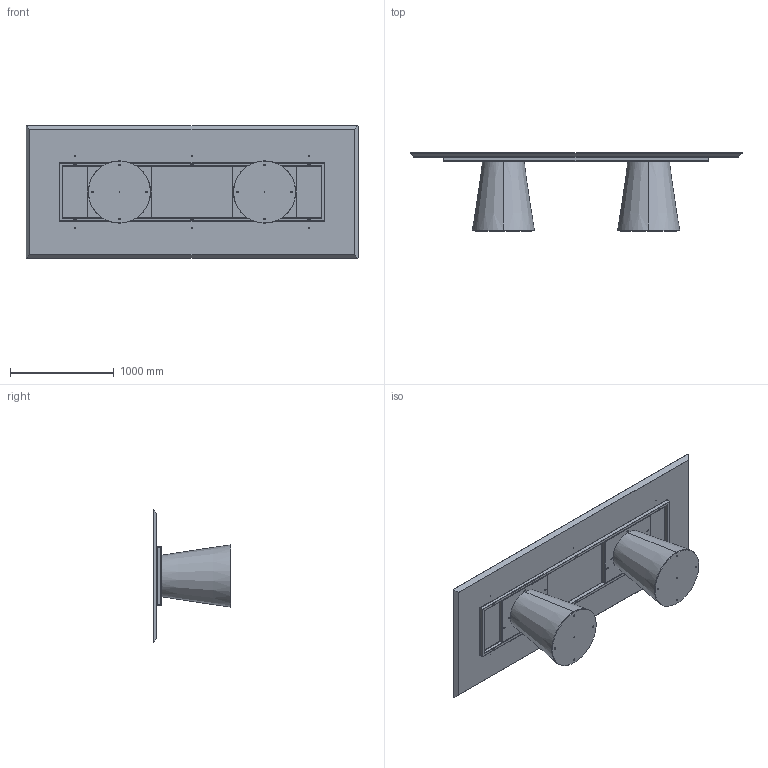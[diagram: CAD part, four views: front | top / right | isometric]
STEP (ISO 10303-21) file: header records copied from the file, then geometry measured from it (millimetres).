
FILE_DESCRIPTION (( 'STEP AP203' ), '1' );
FILE_NAME ('TO27W_Teo_320x128_Wood Rectangular.STEP', '2024-08-02T09:37:55', ( '' ), ( '' ), 'SwSTEP 2.0', 'SolidWorks 2022', '' );
FILE_SCHEMA (( 'CONFIG_CONTROL_DESIGN' ));
Length unit declared in the file: millimetre
Products named in the file (12): TTAV03_02-06-VASSOIO IRRIGIDIMENTO TELAIO UNIVERSALE RETTANGOLARE; M8xXXmm_hex_M8X20mm; TTAV03_01-06-RING TUBO TELAIO UNIVERSALE X TAVOLI 300-340cm; TO27W_Teo_320x128_Wood Rectangular; COLLO TELAIO UNIVERSALE TTAV03 CON FERRAMENTA_MTG TOP LEGNO-MARMO-KING; M8xXXmm_M8x55mm; BASE TED LEGNO CON ZAVORRA; TTAV03-06-TELAIO UNIVERSALE X TAVOLI 300-340cm; rondella M8_8X24; TEO0000-00-TEO BASE LEGNO IMPIALLACCIATA LEVIGATO PRONTA X VERNICE; TEO000000PIA-00-TEO PIASTRA DI BASE IN METALLO GREZZO; W2XCMXX-00-Piani Rettangolari in legno_3200 x 1280
Assembly tree (26 placements, depth 4):
  TO27W_Teo_320x128_Wood Rectangular
    BASE TED LEGNO CON ZAVORRA  x2
      TEO000000PIA-00-TEO PIASTRA DI BASE IN METALLO GREZZO
      TEO0000-00-TEO BASE LEGNO IMPIALLACCIATA LEVIGATO PRONTA X VERNICE
      M8xXXmm_hex_M8X20mm
    COLLO TELAIO UNIVERSALE TTAV03 CON FERRAMENTA_MTG TOP LEGNO-MARMO-KING
      TTAV03-06-TELAIO UNIVERSALE X TAVOLI 300-340cm
        TTAV03_01-06-RING TUBO TELAIO UNIVERSALE X TAVOLI 300-340cm
        TTAV03_02-06-VASSOIO IRRIGIDIMENTO TELAIO UNIVERSALE RETTANGOLARE  x2
      rondella M8_8X24  x6
      M8xXXmm_M8x55mm  x6
    W2XCMXX-00-Piani Rettangolari in legno_3200 x 1280
Bounding box: 3200 x 751.19 x 1280 mm (x, y, z)
Volume: 210726997.1 mm3; surface area: 17985835.9 mm2
Topology: 28 solids, 28 shells, 1104 faces, 2532 edges, 1456 vertices
Faces by surface type: plane 494, cylinder 320, cone 194, torus 88, sphere 8
Entity records: 14739 total; most frequent: DIRECTION 2377, CARTESIAN_POINT 2309, ORIENTED_EDGE 2116, EDGE_CURVE 1058, AXIS2_PLACEMENT_3D 881, VERTEX_POINT 647, VECTOR 615, LINE 615
